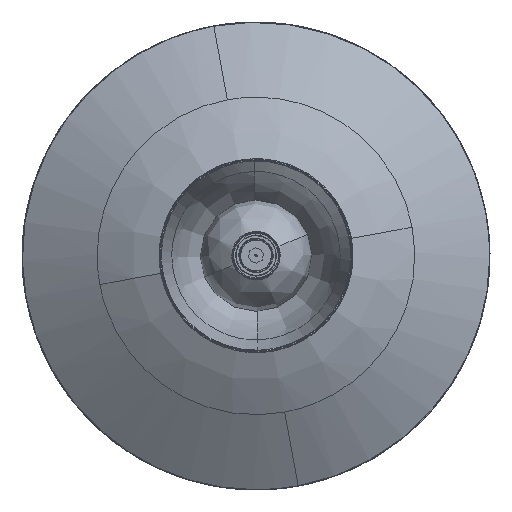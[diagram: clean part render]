
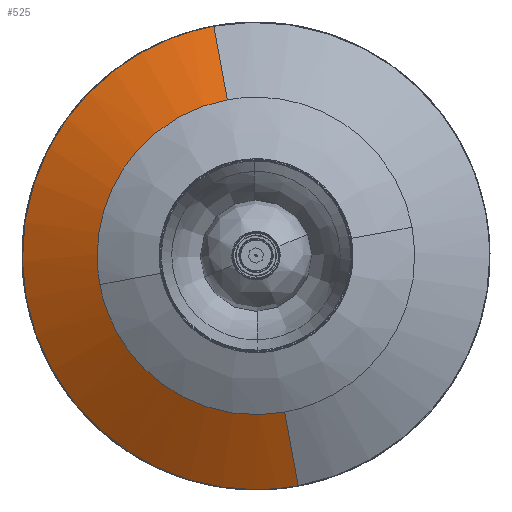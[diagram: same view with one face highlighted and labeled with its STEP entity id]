
A CAD part, top view. The second image highlights one B-rep face of the part: STEP entity #525.
In plain terms, the highlighted free-form (B-spline) face has degree [2, 1] with [5, 2] control points.
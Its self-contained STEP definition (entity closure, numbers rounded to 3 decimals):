
#525=ADVANCED_FACE('',(#889),#5170,.T.);
#889=FACE_OUTER_BOUND('',#1253,.T.);
#1253=EDGE_LOOP('',(#2769,#2770,#2771,#2772,#2773,#2774));
#2769=ORIENTED_EDGE('',*,*,#3657,.T.);
#2770=ORIENTED_EDGE('',*,*,#3631,.F.);
#2771=ORIENTED_EDGE('',*,*,#3636,.T.);
#2772=ORIENTED_EDGE('',*,*,#3638,.F.);
#2773=ORIENTED_EDGE('',*,*,#3635,.T.);
#2774=ORIENTED_EDGE('',*,*,#3658,.F.);
#3631=EDGE_CURVE('',#4983,#4999,#4455,.T.);
#3635=EDGE_CURVE('',#4985,#4973,#4459,.T.);
#3636=EDGE_CURVE('',#4983,#4986,#4460,.T.);
#3638=EDGE_CURVE('',#4985,#4986,#3916,.T.);
#3657=EDGE_CURVE('',#4998,#4999,#3929,.T.);
#3658=EDGE_CURVE('',#4998,#4973,#4468,.T.);
#3916=B_SPLINE_CURVE_WITH_KNOTS('',1,(#18738,#18739),.UNSPECIFIED.,.F.,
 .F.,(2,2),(231.07,339.964),.UNSPECIFIED.);
#3929=B_SPLINE_CURVE_WITH_KNOTS('',1,(#18834,#18835),.UNSPECIFIED.,.F.,
 .F.,(2,2),(231.07,339.964),.UNSPECIFIED.);
#4455=(
BOUNDED_CURVE()
B_SPLINE_CURVE(2,(#18715,#18716,#18717),.UNSPECIFIED.,.F.,.F.)
B_SPLINE_CURVE_WITH_KNOTS((3,3),(0.,454.834),.UNSPECIFIED.)
CURVE()
GEOMETRIC_REPRESENTATION_ITEM()
RATIONAL_B_SPLINE_CURVE((1.,0.707,1.))
REPRESENTATION_ITEM('')
);
#4459=(
BOUNDED_CURVE()
B_SPLINE_CURVE(2,(#18729,#18730,#18731),.UNSPECIFIED.,.F.,.F.)
B_SPLINE_CURVE_WITH_KNOTS((3,3),(309.147,618.293),
 .UNSPECIFIED.)
CURVE()
GEOMETRIC_REPRESENTATION_ITEM()
RATIONAL_B_SPLINE_CURVE((1.,0.707,1.))
REPRESENTATION_ITEM('')
);
#4460=(
BOUNDED_CURVE()
B_SPLINE_CURVE(2,(#18732,#18733,#18734),.UNSPECIFIED.,.F.,.F.)
B_SPLINE_CURVE_WITH_KNOTS((3,3),(0.,454.834),.UNSPECIFIED.)
CURVE()
GEOMETRIC_REPRESENTATION_ITEM()
RATIONAL_B_SPLINE_CURVE((1.,0.707,1.))
REPRESENTATION_ITEM('')
);
#4468=(
BOUNDED_CURVE()
B_SPLINE_CURVE(2,(#18836,#18837,#18838),.UNSPECIFIED.,.F.,.F.)
B_SPLINE_CURVE_WITH_KNOTS((3,3),(309.147,618.293),
 .UNSPECIFIED.)
CURVE()
GEOMETRIC_REPRESENTATION_ITEM()
RATIONAL_B_SPLINE_CURVE((1.,0.707,1.))
REPRESENTATION_ITEM('')
);
#4973=VERTEX_POINT('',#18549);
#4983=VERTEX_POINT('',#18559);
#4985=VERTEX_POINT('',#18561);
#4986=VERTEX_POINT('',#18562);
#4998=VERTEX_POINT('',#18574);
#4999=VERTEX_POINT('',#18575);
#5170=(
BOUNDED_SURFACE()
B_SPLINE_SURFACE(2,1,((#18302,#18303),(#18304,#18305),(#18306,#18307),(#18308,
#18309),(#18310,#18311)),.UNSPECIFIED.,.F.,.F.,.F.)
B_SPLINE_SURFACE_WITH_KNOTS((3,2,3),(2,2),(0.,500.624,1001.248),
(0.,374.189),.UNSPECIFIED.)
GEOMETRIC_REPRESENTATION_ITEM()
RATIONAL_B_SPLINE_SURFACE(((1.,1.),(0.707,0.707),
(1.,1.),(0.707,0.707),(1.,1.)))
REPRESENTATION_ITEM('')
SURFACE()
);
#18302=CARTESIAN_POINT('',(0.,0.,59.961));
#18303=CARTESIAN_POINT('',(0.,-318.707,-136.109));
#18304=CARTESIAN_POINT('',(0.,0.,59.961));
#18305=CARTESIAN_POINT('',(-318.707,-318.707,-136.109));
#18306=CARTESIAN_POINT('',(0.,0.,59.961));
#18307=CARTESIAN_POINT('',(-318.707,0.,-136.109));
#18308=CARTESIAN_POINT('',(0.,0.,59.961));
#18309=CARTESIAN_POINT('',(-318.707,318.707,-136.109));
#18310=CARTESIAN_POINT('',(0.,0.,59.961));
#18311=CARTESIAN_POINT('',(0.,318.707,-136.109));
#18549=CARTESIAN_POINT('',(-196.809,0.,-61.117));
#18559=CARTESIAN_POINT('',(-289.556,0.,-118.175));
#18561=CARTESIAN_POINT('',(0.,-196.809,-61.117));
#18562=CARTESIAN_POINT('',(0.,-289.556,-118.175));
#18574=CARTESIAN_POINT('',(0.,196.809,-61.117));
#18575=CARTESIAN_POINT('',(0.,289.556,-118.175));
#18715=CARTESIAN_POINT('',(-289.556,0.,-118.175));
#18716=CARTESIAN_POINT('',(-289.556,289.556,-118.175));
#18717=CARTESIAN_POINT('',(0.,289.556,-118.175));
#18729=CARTESIAN_POINT('',(0.,-196.809,-61.117));
#18730=CARTESIAN_POINT('',(-196.809,-196.809,-61.117));
#18731=CARTESIAN_POINT('',(-196.809,0.,-61.117));
#18732=CARTESIAN_POINT('',(-289.556,0.,-118.175));
#18733=CARTESIAN_POINT('',(-289.556,-289.556,-118.175));
#18734=CARTESIAN_POINT('',(0.,-289.556,-118.175));
#18738=CARTESIAN_POINT('',(0.,-196.809,-61.117));
#18739=CARTESIAN_POINT('',(0.,-289.556,-118.175));
#18834=CARTESIAN_POINT('',(0.,196.809,-61.117));
#18835=CARTESIAN_POINT('',(0.,289.556,-118.175));
#18836=CARTESIAN_POINT('',(0.,196.809,-61.117));
#18837=CARTESIAN_POINT('',(-196.809,196.809,-61.117));
#18838=CARTESIAN_POINT('',(-196.809,0.,-61.117));
